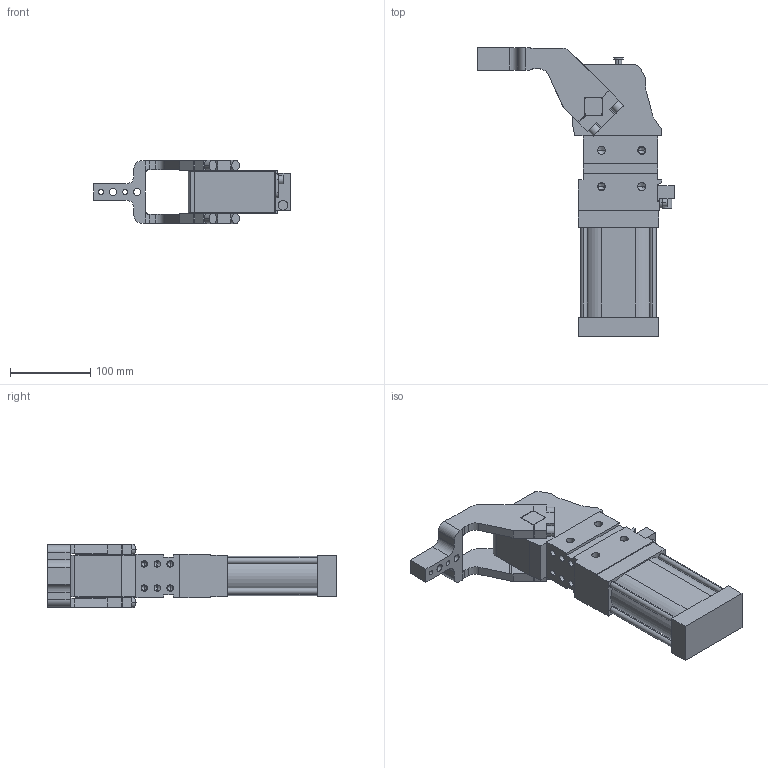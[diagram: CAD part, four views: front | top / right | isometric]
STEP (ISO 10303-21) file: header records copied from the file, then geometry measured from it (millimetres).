
FILE_DESCRIPTION (( 'STEP AP214' ), '1' );
FILE_NAME ('cpl63v3ci1g_135.STEP', '2023-01-26T10:42:30', ( '' ), ( '' ), 'SwSTEP 2.0', 'SolidWorks 2022', '' );
FILE_SCHEMA (( 'AUTOMOTIVE_DESIGN' ));
Length unit declared in the file: millimetre
Products named in the file (4): cpl63v3ci1g_135; leva_cx_offset_45_cpl63; meccanica_cpl_63; blocchetto_VEP_0
Assembly tree (3 placements, depth 2):
  cpl63v3ci1g_135
    meccanica_cpl_63
    blocchetto_VEP_0
    leva_cx_offset_45_cpl63
Bounding box: 244.5 x 359.5 x 79 mm (x, y, z)
Volume: 1800110.4 mm3; surface area: 192578.9 mm2
Topology: 3 solids, 3 shells, 398 faces, 1043 edges, 643 vertices
Faces by surface type: plane 200, cylinder 148, cone 50
Entity records: 13505 total; most frequent: DIRECTION 2127, CARTESIAN_POINT 2120, ORIENTED_EDGE 1994, EDGE_CURVE 997, AXIS2_PLACEMENT_3D 732, VECTOR 663, LINE 663, VERTEX_POINT 643
